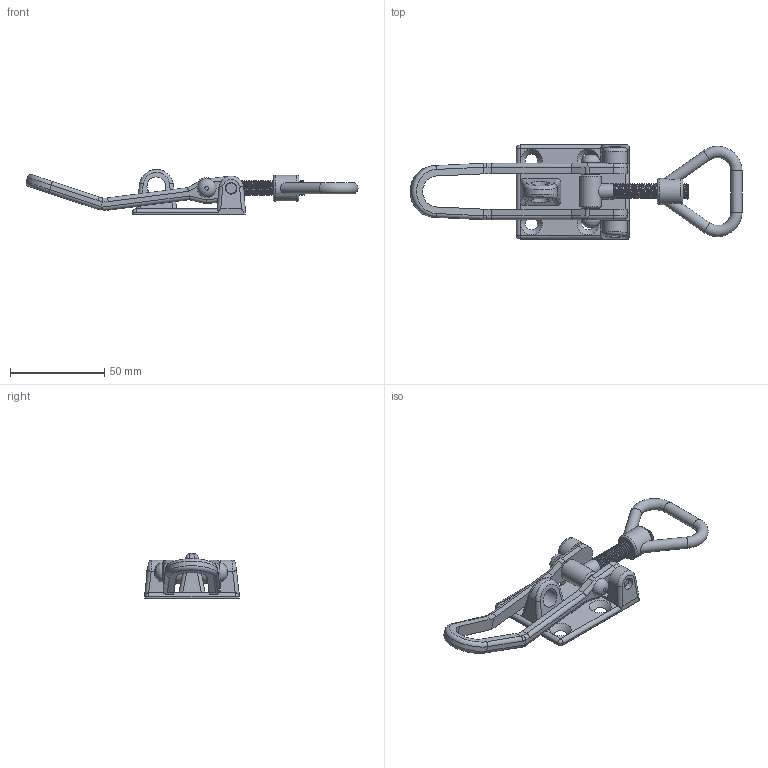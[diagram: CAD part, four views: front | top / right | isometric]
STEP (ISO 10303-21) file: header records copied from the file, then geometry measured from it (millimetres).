
FILE_DESCRIPTION(/* description */ ('Unknown'),/* implementation_level */ '2;1');
FILE_NAME(/* name */ '3921.01.04',/* time_stamp */ '2025-09-09T08:11:22+02:00',/* author */ ('Unknown'),/* organization */ ('Unknown'),/* preprocessor_version */ 'ST-DEVELOPER v16.7',/* originating_system */ 'DEX',/* authorisation */ $);
FILE_SCHEMA (('AUTOMOTIVE_DESIGN {1 0 10303 214 3 1 1}'));
Length unit declared in the file: millimetre
Products named in the file (6): 3921.01.04; Grundplatte; Griff; Gewindebolzen; Stift; Halter
Assembly tree (5 placements, depth 2):
  3921.01.04
    Grundplatte
    Griff
    Gewindebolzen
    Stift
    Halter
Bounding box: 176.51 x 50 x 24 mm (x, y, z)
Volume: 33488.7 mm3; surface area: 21994.9 mm2
Topology: 5 solids, 5 shells, 202 faces, 526 edges, 335 vertices
Faces by surface type: cylinder 104, plane 56, torus 18, bspline 16, cone 6, sphere 2
Full cylindrical faces by diameter (mm): 6 x6, 6.2 x2, 6.5 x3, 6.8 x1, 8 x32, 10 x1, 11.5 x1, 14 x1
Entity records: 11937 total; most frequent: CARTESIAN_POINT 7907, DIRECTION 829, ORIENTED_EDGE 762, EDGE_CURVE 381, AXIS2_PLACEMENT_3D 335, VERTEX_POINT 254, EDGE_LOOP 227, FACE_BOUND 227
